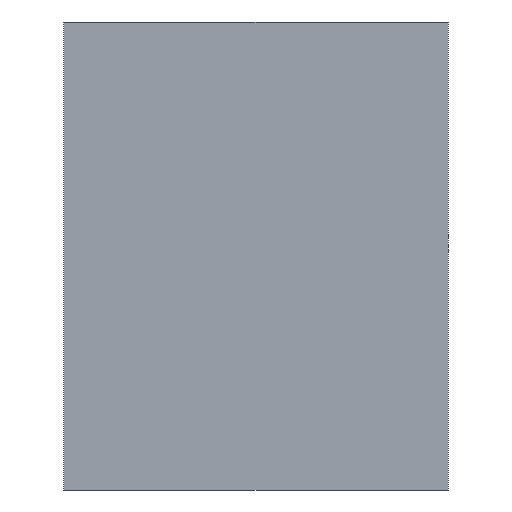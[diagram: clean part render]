
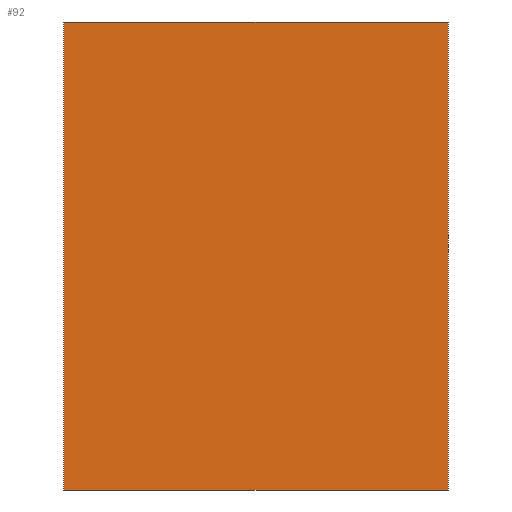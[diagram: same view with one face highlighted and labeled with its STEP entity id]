
A CAD part, top view. The second image highlights one B-rep face of the part: STEP entity #92.
In plain terms, the highlighted planar face has unit normal (0, 0, 1).
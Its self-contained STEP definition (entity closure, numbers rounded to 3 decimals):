
#53=CARTESIAN_POINT('Axis2P3D Location',(0.,0.,0.)) ;
#58=CARTESIAN_POINT('Line Origine',(46.,0.,0.)) ;
#62=CARTESIAN_POINT('Vertex',(0.,0.,0.)) ;
#64=CARTESIAN_POINT('Vertex',(92.,0.,0.)) ;
#67=CARTESIAN_POINT('Line Origine',(92.,56.,0.)) ;
#71=CARTESIAN_POINT('Vertex',(92.,112.,0.)) ;
#74=CARTESIAN_POINT('Line Origine',(46.,112.,0.)) ;
#78=CARTESIAN_POINT('Vertex',(0.,112.,0.)) ;
#81=CARTESIAN_POINT('Line Origine',(0.,56.,0.)) ;
#54=DIRECTION('Axis2P3D Direction',(0.,0.,1.)) ;
#55=DIRECTION('Axis2P3D XDirection',(1.,0.,0.)) ;
#59=DIRECTION('Vector Direction',(1.,0.,0.)) ;
#68=DIRECTION('Vector Direction',(0.,1.,0.)) ;
#75=DIRECTION('Vector Direction',(-1.,0.,0.)) ;
#82=DIRECTION('Vector Direction',(0.,-1.,0.)) ;
#56=AXIS2_PLACEMENT_3D('Plane Axis2P3D',#53,#54,#55) ;
#87=ORIENTED_EDGE('',*,*,#66,.T.) ;
#88=ORIENTED_EDGE('',*,*,#73,.T.) ;
#89=ORIENTED_EDGE('',*,*,#80,.T.) ;
#90=ORIENTED_EDGE('',*,*,#85,.T.) ;
#60=VECTOR('Line Direction',#59,1.) ;
#69=VECTOR('Line Direction',#68,1.) ;
#76=VECTOR('Line Direction',#75,1.) ;
#83=VECTOR('Line Direction',#82,1.) ;
#92=ADVANCED_FACE('Fill.1',(#91),#57,.T.) ;
#66=EDGE_CURVE('',#63,#65,#61,.T.) ;
#73=EDGE_CURVE('',#65,#72,#70,.T.) ;
#80=EDGE_CURVE('',#72,#79,#77,.T.) ;
#85=EDGE_CURVE('',#79,#63,#84,.T.) ;
#86=EDGE_LOOP('',(#87,#88,#89,#90)) ;
#91=FACE_OUTER_BOUND('',#86,.T.) ;
#61=LINE('Line',#58,#60) ;
#70=LINE('Line',#67,#69) ;
#77=LINE('Line',#74,#76) ;
#84=LINE('Line',#81,#83) ;
#57=PLANE('',#56) ;
#63=VERTEX_POINT('',#62) ;
#65=VERTEX_POINT('',#64) ;
#72=VERTEX_POINT('',#71) ;
#79=VERTEX_POINT('',#78) ;
